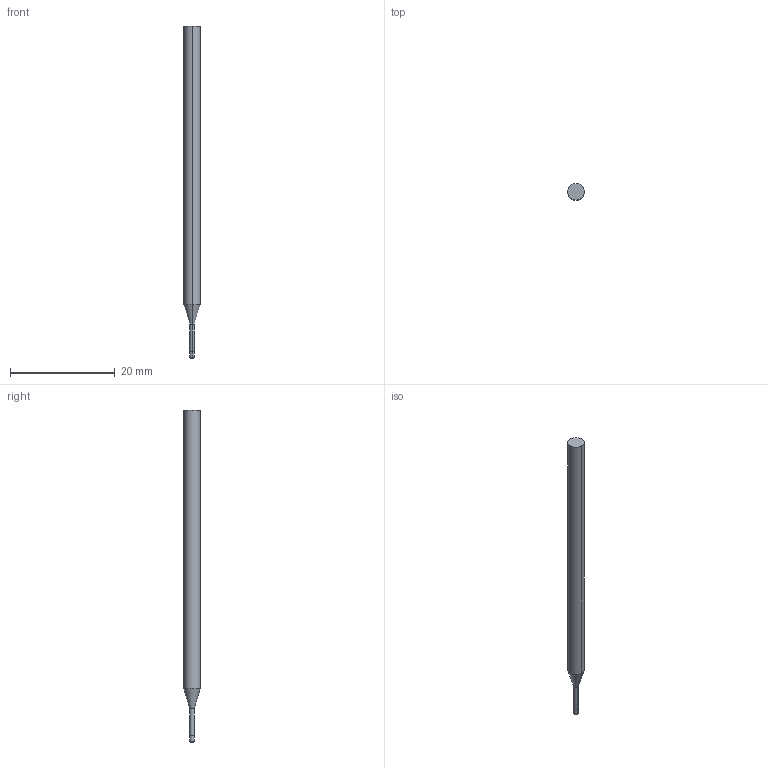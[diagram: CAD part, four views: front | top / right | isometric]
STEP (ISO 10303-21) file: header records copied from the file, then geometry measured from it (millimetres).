
FILE_DESCRIPTION((' '),'2;1');
FILE_NAME( '3MVS0312R.005N8AH.stp', '2026-01-21T19:06:59', (' '), ('--- Datakit www.datakit.com---'), ' Datakit CrossCadWare V2025.4 Sep 19 2025', 'Mastercam 2027', ' ');
FILE_SCHEMA(('AUTOMOTIVE_DESIGN { 1 0 10303 214 1 1 1 1 }'));
Length unit declared in the file: inch
Products named in the file (1): 3MVS0312R
Bounding box: 3.17 x 3.17 x 63.5 mm (x, y, z)
Volume: 438.2 mm3; surface area: 580.7 mm2
Topology: 1 solids, 1 shells, 12 faces, 22 edges, 12 vertices
Faces by surface type: cylinder 6, plane 2, torus 2, cone 2
Entity records: 377 total; most frequent: DIRECTION 70, CARTESIAN_POINT 51, ORIENTED_EDGE 44, AXIS2_PLACEMENT_3D 31, EDGE_CURVE 22, CIRCLE 14, VERTEX_POINT 12, EDGE_LOOP 12
